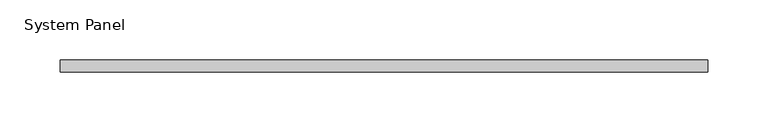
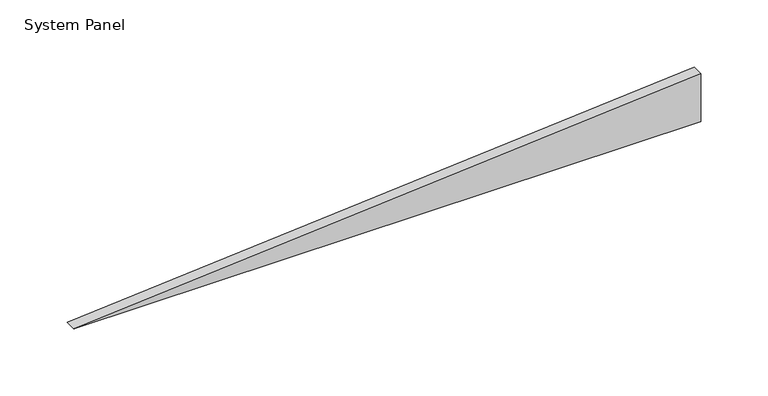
"""IFC4 building model written with IfcOpenShell, lengths in millimetres: plate geometry, System Panel : VACÍO."""

import ifcopenshell
import ifcopenshell.guid

model = None  # the IFC model being written
_history = None  # IfcOwnerHistory: only IFC2X3 demands one
_inside = {}  # id of a spatial element -> (the spatial element, [elements in it])
_under = {}  # id of a project, library or spatial element -> (it, [spatial elements below it])
_declared = {}  # id of a project -> (the project, [libraries it declares])
_typed = {}  # id of a type object -> (the type object, [elements of that type])
_made_of = {}  # id of a material, layer set ... -> (it, [elements and type objects made of it])


def new_model(schema):
    """Start an empty IFC model of exactly this schema.

    Asked for "IFC4X3", IfcOpenShell would pick the latest addendum, in which some entities
    have other attributes; the version numbers below select the first issue.
    IFC2X3 requires an IfcOwnerHistory on every rooted entity: one is made here for all.
    """
    global model, _history
    if schema == "IFC4X3":
        model = ifcopenshell.file(schema_version=(4, 3, 0, 0))
    else:
        model = ifcopenshell.file(schema=schema)
    _inside.clear()
    _under.clear()
    _declared.clear()
    _typed.clear()
    _made_of.clear()
    _history = None
    if model.schema == "IFC2X3":
        org = make("IfcOrganization", Name="unknown")
        user = make(
            "IfcPersonAndOrganization",
            ThePerson=make("IfcPerson", FamilyName="unknown"),
            TheOrganization=org,
        )
        app = make(
            "IfcApplication",
            ApplicationDeveloper=org,
            Version="unknown",
            ApplicationFullName="unknown",
            ApplicationIdentifier="unknown",
        )
        _history = make(
            "IfcOwnerHistory",
            OwningUser=user,
            OwningApplication=app,
            ChangeAction="ADDED",
            CreationDate=0,
        )
    return model


def make(cls, **values):
    """One entity of the class cls with the attributes given. An attribute that is None is left unset."""
    return model.create_entity(
        cls, **{name: value for name, value in values.items() if value is not None}
    )


def rooted(cls, **values):
    """An entity with a GlobalId (a new one), such as an element, a storey or a relation."""
    return make(cls, GlobalId=ifcopenshell.guid.new(), OwnerHistory=_history, **values)


def si_unit(unit_type, name, prefix=None):
    """IfcSIUnit, for example si_unit("LENGTHUNIT", "METRE", prefix="MILLI")."""
    return make("IfcSIUnit", UnitType=unit_type, Prefix=prefix, Name=name)


def assignment(units):
    """IfcUnitAssignment: the units of a project."""
    return None if units is None else make("IfcUnitAssignment", Units=units)


def point(xyz):
    """IfcCartesianPoint."""
    return None if xyz is None else make("IfcCartesianPoint", Coordinates=xyz)


def direction(xyz):
    """IfcDirection."""
    return None if xyz is None else make("IfcDirection", DirectionRatios=xyz)


def frame(location, z_axis=None, x_axis=None):
    """IfcAxis2Placement3D, a coordinate frame: its origin and axes. An axis left out is left unset."""
    return make(
        "IfcAxis2Placement3D",
        Location=point(location),
        Axis=direction(z_axis),
        RefDirection=direction(x_axis),
    )


def origin():
    """The frame at (0, 0, 0) with its axes left unset."""
    return frame((0.0, 0.0, 0.0))


def place(relative_to, where):
    """IfcLocalPlacement: puts the frame where relative to a parent placement (None: the world)."""
    return make(
        "IfcLocalPlacement", PlacementRelTo=relative_to, RelativePlacement=where
    )


def context(
    kind, dimensions, precision=None, world=None, true_north=None, identifier=None
):
    """IfcGeometricRepresentationContext, for example the 3D "Model" context."""
    return make(
        "IfcGeometricRepresentationContext",
        ContextIdentifier=identifier,
        ContextType=kind,
        CoordinateSpaceDimension=dimensions,
        Precision=precision,
        WorldCoordinateSystem=world,
        TrueNorth=true_north,
    )


def project(units=None, contexts=None):
    """IfcProject with its units and contexts."""
    return rooted(
        "IfcProject",
        Name="project",
        RepresentationContexts=contexts,
        UnitsInContext=assignment(units),
    )


def spatial(cls, under=None, at=None, **own):
    """A site, building, storey or space (cls), placed at a placement, below another one or the project."""
    s = rooted(cls, ObjectPlacement=at, **own)
    if under is not None:
        _under.setdefault(under.id(), (under, []))[1].append(s)
    return s


def polyline(points):
    """IfcPolyline through the points."""
    return make("IfcPolyline", Points=[point(p) for p in points])


def outline(outer, holes=None, kind="AREA"):
    """IfcArbitraryClosedProfileDef: a profile drawn as a closed curve; with holes, ...WithVoids."""
    if holes is None:
        return make("IfcArbitraryClosedProfileDef", ProfileType=kind, OuterCurve=outer)
    return make(
        "IfcArbitraryProfileDefWithVoids",
        ProfileType=kind,
        OuterCurve=outer,
        InnerCurves=holes,
    )


def extrude(swept, where, along, depth):
    """IfcExtrudedAreaSolid: the profile swept, set in the frame where, extruded along a direction by depth."""
    return make(
        "IfcExtrudedAreaSolid",
        SweptArea=swept,
        Position=where,
        ExtrudedDirection=direction(along),
        Depth=depth,
    )


def shape(context_of_items, identifier, shape_type, items):
    """IfcShapeRepresentation: the items that make up one representation, for example the "Body"."""
    return make(
        "IfcShapeRepresentation",
        ContextOfItems=context_of_items,
        RepresentationIdentifier=identifier,
        RepresentationType=shape_type,
        Items=items,
    )


def source(mapping_origin, context_of_items, identifier, shape_type, items):
    """IfcRepresentationMap: a shape defined once, which mapped items show again and again."""
    return make(
        "IfcRepresentationMap",
        MappingOrigin=mapping_origin,
        MappedRepresentation=shape(context_of_items, identifier, shape_type, items),
    )


def transform(
    local_origin,
    x_axis=None,
    y_axis=None,
    z_axis=None,
    scale=None,
    scale2=None,
    scale3=None,
    uniform=True,
):
    """IfcCartesianTransformationOperator3D, or its non-uniform kind. x_axis, y_axis, z_axis: its Axis1, 2, 3."""
    if uniform:
        return make(
            "IfcCartesianTransformationOperator3D",
            Axis1=direction(x_axis),
            Axis2=direction(y_axis),
            LocalOrigin=point(local_origin),
            Scale=scale,
            Axis3=direction(z_axis),
        )
    return make(
        "IfcCartesianTransformationOperator3DnonUniform",
        Axis1=direction(x_axis),
        Axis2=direction(y_axis),
        LocalOrigin=point(local_origin),
        Scale=scale,
        Axis3=direction(z_axis),
        Scale2=scale2,
        Scale3=scale3,
    )


def mapped(mapping_source, mapping_target):
    """IfcMappedItem: shows the shape of a source again, moved by a transform."""
    return make(
        "IfcMappedItem", MappingSource=mapping_source, MappingTarget=mapping_target
    )


def made_of(thing, what):
    """Note that an element or type object is made of a material, layer set ...; save() writes the relation."""
    if what is not None:
        _made_of.setdefault(what.id(), (what, []))[1].append(thing)
    return thing


def element(
    cls,
    number,
    at=None,
    inside=None,
    cuts=None,
    type_object=None,
    material=None,
    context=None,
    identifier="Body",
    shape_type=None,
    held_by="IfcProductDefinitionShape",
    body=None,
    shapes=None,
    **own,
):
    """One element of the class cls, such as IfcWall. Its Tag is "e" and its number.

    at: its placement. inside: the storey or other place that contains it. cuts: it is an
    opening in that element (IfcRelVoidsElement). A single representation is given by context,
    identifier, shape_type and body (its items); several are given by shapes. held_by: the class
    of the entity that holds the representations. save() writes the other relations.
    """
    e = rooted(cls, Tag="e%d" % number, ObjectPlacement=at, **own)
    if body is not None:
        shapes = [shape(context, identifier, shape_type, body)]
    if shapes is not None:
        e.Representation = make(held_by, Representations=shapes)
    if inside is not None:
        _inside.setdefault(inside.id(), (inside, []))[1].append(e)
    if cuts is not None:
        rooted(
            "IfcRelVoidsElement", RelatingBuildingElement=cuts, RelatedOpeningElement=e
        )
    if type_object is not None:
        _typed.setdefault(type_object.id(), (type_object, []))[1].append(e)
    return made_of(e, material)


def aggregate(whole, parts):
    """IfcRelAggregates: a whole, such as a stair, and the parts it consists of."""
    return rooted("IfcRelAggregates", RelatingObject=whole, RelatedObjects=parts)


def save(model, path):
    """Write the relations noted so far, then the file.

    IfcRelAggregates (storeys below a building ...), IfcRelContainedInSpatialStructure (elements
    in a storey), IfcRelDefinesByType, IfcRelAssociatesMaterial and IfcRelDeclares: one each for
    every whole, place, type object, material and project.
    """
    for whole, parts in _under.values():
        aggregate(whole, parts)
    for where, things in _inside.values():
        rooted(
            "IfcRelContainedInSpatialStructure",
            RelatedElements=things,
            RelatingStructure=where,
        )
    for kind, things in _typed.values():
        rooted("IfcRelDefinesByType", RelatedObjects=things, RelatingType=kind)
    for what, things in _made_of.values():
        rooted("IfcRelAssociatesMaterial", RelatedObjects=things, RelatingMaterial=what)
    for by, libraries in _declared.values():
        rooted("IfcRelDeclares", RelatingContext=by, RelatedDefinitions=libraries)
    model.write(path)


def system_panel_b9515c6a(model_context):
    return source(origin(), model_context, "Body", "SweptSolid", [
        extrude(outline(polyline([(0.0, -269.9020858), (0.0, 269.9020858), (43.5509446, 269.9020858), (0.0, -269.9020858)])), frame((0.0, -5.0, 0.0), z_axis=(0.0, 1.0, 0.0), x_axis=(0.0, 0.0, 1.0)), (0.0, 0.0, 1.0), 10.0),
    ])


if __name__ == "__main__":
    model = new_model("IFC4")
    model_context = context("Model", 3, world=origin())
    ifc_project = project(units=[si_unit("LENGTHUNIT", "METRE", prefix="MILLI")], contexts=[model_context])
    site = spatial("IfcSite", under=ifc_project)
    building = spatial("IfcBuilding", under=site)
    placement = place(None, origin())
    system_panel_shape = system_panel_b9515c6a(model_context)
    element("IfcPlate", 1, ObjectType="System Panel : VACÍO", at=placement, inside=building, context=model_context, shape_type="MappedRepresentation", body=[
        mapped(system_panel_shape, transform((0.0, 0.0, 0.0), x_axis=(1.0, 0.0, 0.0), y_axis=(0.0, 1.0, 0.0), z_axis=(0.0, 0.0, 1.0))),
    ])
    save(model, "model.ifc")
